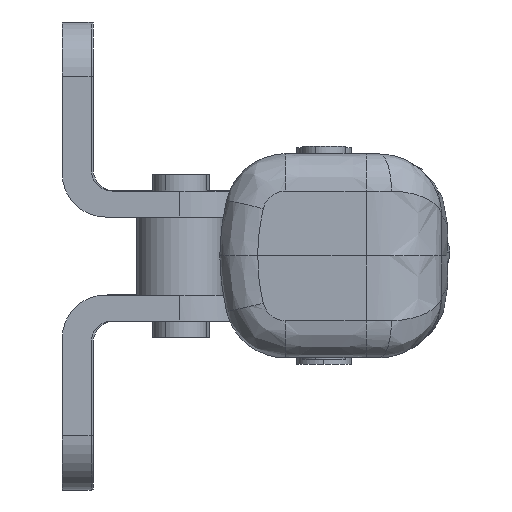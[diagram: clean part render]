
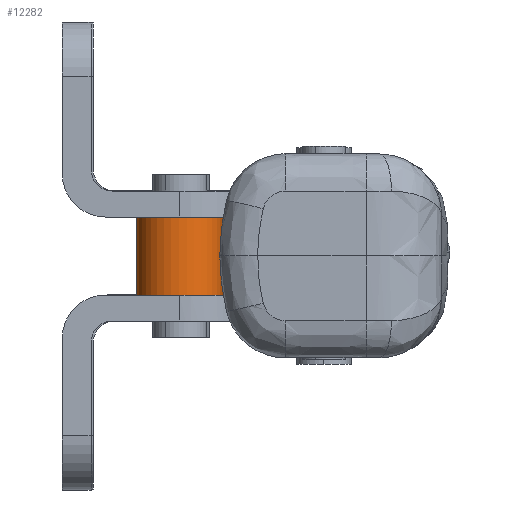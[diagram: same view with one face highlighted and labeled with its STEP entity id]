
A CAD part, front view. The second image highlights one B-rep face of the part: STEP entity #12282.
In plain terms, the highlighted cylindrical face has radius 4 mm (diameter 8 mm), a partial arc.
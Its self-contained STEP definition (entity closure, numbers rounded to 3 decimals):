
#311 = EDGE_CURVE ( 'NONE', #3414, #16757, #10074, .T. ) ;
#1492 = CYLINDRICAL_SURFACE ( 'NONE', #8711, 4. ) ;
#1855 = CARTESIAN_POINT ( 'NONE',  ( 4., 0., 0. ) ) ;
#2838 = ORIENTED_EDGE ( 'NONE', *, *, #30278, .T. ) ;
#3414 = VERTEX_POINT ( 'NONE', #17078 ) ;
#4078 = DIRECTION ( 'NONE',  ( 0., 0., -1. ) ) ;
#5063 = AXIS2_PLACEMENT_3D ( 'NONE', #6228, #22958, #8645 ) ;
#5205 = DIRECTION ( 'NONE',  ( 0., 0., -1. ) ) ;
#6153 = ORIENTED_EDGE ( 'NONE', *, *, #15907, .F. ) ;
#6228 = CARTESIAN_POINT ( 'NONE',  ( 0., 0., 0. ) ) ;
#8413 = DIRECTION ( 'NONE',  ( 0., 0., -1. ) ) ;
#8645 = DIRECTION ( 'NONE',  ( -1., 0., 0. ) ) ;
#8711 = AXIS2_PLACEMENT_3D ( 'NONE', #27731, #4078, #30308 ) ;
#10074 = LINE ( 'NONE', #27171, #22795 ) ;
#10322 = LINE ( 'NONE', #25141, #16650 ) ;
#10393 = DIRECTION ( 'NONE',  ( 0., 0., -1. ) ) ;
#10820 = CIRCLE ( 'NONE', #25766, 4. ) ;
#11017 = CARTESIAN_POINT ( 'NONE',  ( -4., 0., 0. ) ) ;
#12282 = ADVANCED_FACE ( 'NONE', ( #16354 ), #1492, .T. ) ;
#13333 = EDGE_LOOP ( 'NONE', ( #18958, #25252, #2838, #6153 ) ) ;
#15907 = EDGE_CURVE ( 'NONE', #21123, #19300, #10322, .T. ) ;
#16354 = FACE_OUTER_BOUND ( 'NONE', #13333, .T. ) ;
#16650 = VECTOR ( 'NONE', #8413, 1000. ) ;
#16757 = VERTEX_POINT ( 'NONE', #1855 ) ;
#17078 = CARTESIAN_POINT ( 'NONE',  ( 4., 0., 7.2 ) ) ;
#17555 = CARTESIAN_POINT ( 'NONE',  ( -4., 0., 7.2 ) ) ;
#18958 = ORIENTED_EDGE ( 'NONE', *, *, #28110, .T. ) ;
#19300 = VERTEX_POINT ( 'NONE', #11017 ) ;
#21123 = VERTEX_POINT ( 'NONE', #17555 ) ;
#22795 = VECTOR ( 'NONE', #5205, 1000. ) ;
#22958 = DIRECTION ( 'NONE',  ( 0., 0., 1. ) ) ;
#24722 = CARTESIAN_POINT ( 'NONE',  ( 0., 0., 7.2 ) ) ;
#25141 = CARTESIAN_POINT ( 'NONE',  ( -4., 0., 7.2 ) ) ;
#25252 = ORIENTED_EDGE ( 'NONE', *, *, #311, .T. ) ;
#25766 = AXIS2_PLACEMENT_3D ( 'NONE', #24722, #10393, #27110 ) ;
#27110 = DIRECTION ( 'NONE',  ( -1., 0., 0. ) ) ;
#27171 = CARTESIAN_POINT ( 'NONE',  ( 4., 0., 7.2 ) ) ;
#27731 = CARTESIAN_POINT ( 'NONE',  ( 0., 0., 7.2 ) ) ;
#27812 = CIRCLE ( 'NONE', #5063, 4. ) ;
#28110 = EDGE_CURVE ( 'NONE', #21123, #3414, #10820, .T. ) ;
#30278 = EDGE_CURVE ( 'NONE', #16757, #19300, #27812, .T. ) ;
#30308 = DIRECTION ( 'NONE',  ( -1., 0., 0. ) ) ;
